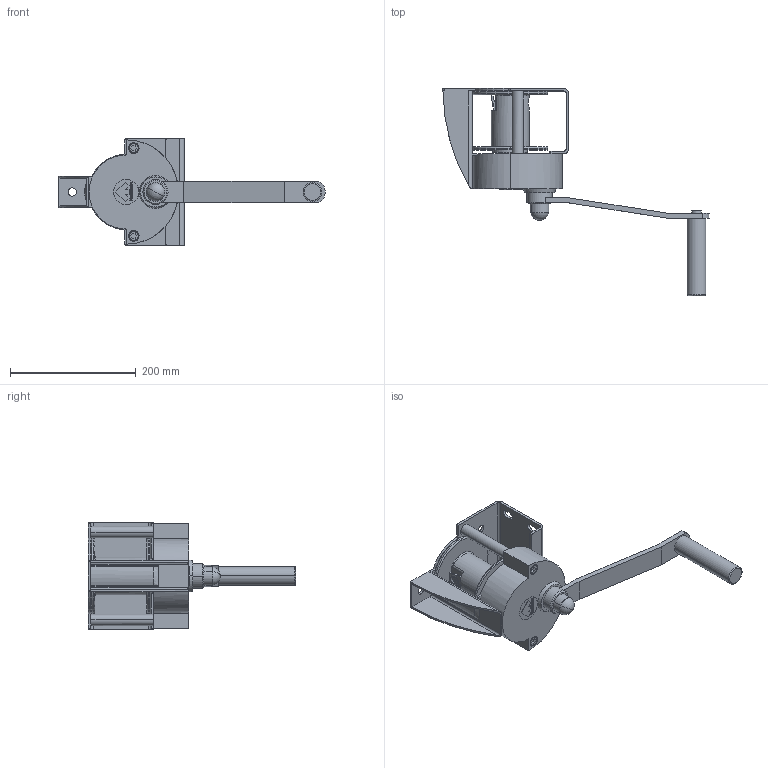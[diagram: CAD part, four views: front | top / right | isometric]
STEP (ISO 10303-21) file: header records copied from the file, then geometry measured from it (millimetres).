
FILE_DESCRIPTION(('Creo Elements/Direct Modeling STEP Export'),'2;1');
FILE_NAME('207099.stp','2018-01-17T16:07:53',(''),(''),'Creo Elements/Direct Modeling STEP processor for AP203 (Solid Model)','Creo Elements/Direct Modeling 18.1F 24-Jul-2014 (C) Parametric Technology GmbH','');
FILE_SCHEMA(('CONFIG_CONTROL_DESIGN'));
Length unit declared in the file: millimetre
Products named in the file (3): Kurbel; Seilwinde; Handseilwinde_TANGO_KV300_207099A
Assembly tree (2 placements, depth 2):
  Handseilwinde_TANGO_KV300_207099A
    Seilwinde
    Kurbel
Bounding box: 423.68 x 329.9 x 170 mm (x, y, z)
Volume: 1114667.1 mm3; surface area: 362179.1 mm2
Topology: 2 solids, 4 shells, 538 faces, 1444 edges, 940 vertices
Faces by surface type: plane 277, cylinder 185, torus 35, cone 29, bspline 10, sphere 2
Entity records: 22680 total; most frequent: CARTESIAN_POINT 9676, ORIENTED_EDGE 2884, DIRECTION 2366, EDGE_CURVE 1442, VERTEX_POINT 940, AXIS2_PLACEMENT_3D 797, VECTOR 772, LINE 772
